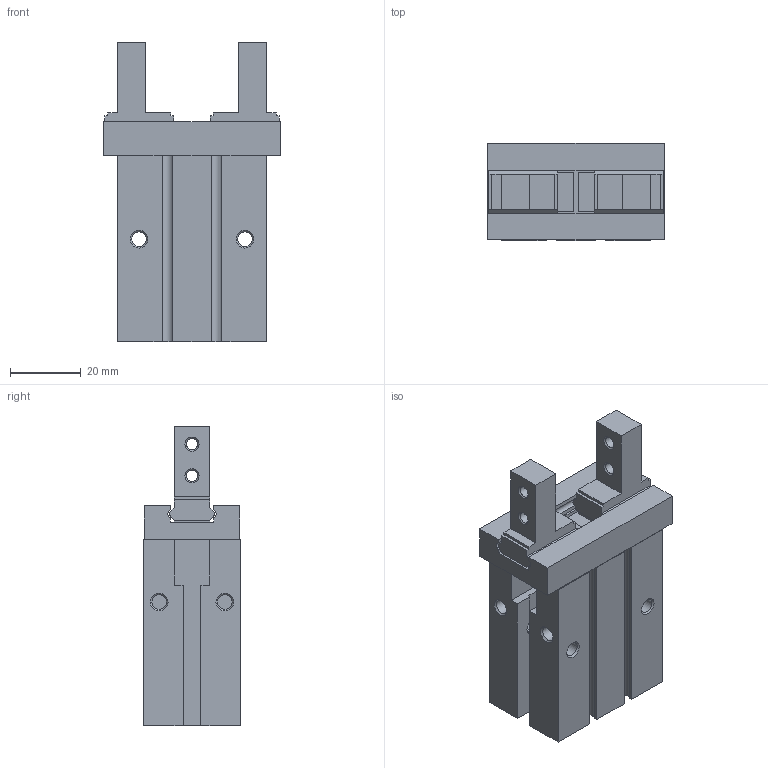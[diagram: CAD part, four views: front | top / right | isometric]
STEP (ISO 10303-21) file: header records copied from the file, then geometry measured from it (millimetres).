
FILE_DESCRIPTION( ( 'STEP AP214' ), '1' );
FILE_NAME( 'F:/CRG-3D-PAN-XU/CRG-chan pin kai fa cun dang - xu/协助/样品整理/平行夹/MHZ2-20S_26.3_0_.stp', '2023-03-07T10:04:55', ( '' ), ( '' ), ' ', 'PARTsolutions', ' ' );
FILE_SCHEMA( ( 'AUTOMOTIVE_DESIGN { 1 0 10303 214 1 1 1 1 }' ) );
Length unit declared in the file: millimetre
Products named in the file (3): MHZ2-20S(26.3_0); _MHZ2-20S_Body(0); _MHZ2-20S_Finger(0)
Assembly tree (3 placements, depth 2):
  MHZ2-20S(26.3_0)
    _MHZ2-20S_Body(0)
    _MHZ2-20S_Finger(0)  x2
Bounding box: 50 x 27.6 x 84.8 mm (x, y, z)
Volume: 65591.7 mm3; surface area: 20562.3 mm2
Topology: 3 solids, 3 shells, 199 faces, 519 edges, 335 vertices
Faces by surface type: plane 149, cylinder 29, cone 21
Full cylindrical faces by diameter (mm): 3.242 x4, 4 x1, 4.134 x9, 4.3 x4, 21 x1
Entity records: 6004 total; most frequent: CARTESIAN_POINT 805, DIRECTION 786, ORIENTED_EDGE 754, EDGE_CURVE 377, LINE 298, VECTOR 298, VERTEX_POINT 263, AXIS2_PLACEMENT_3D 244
